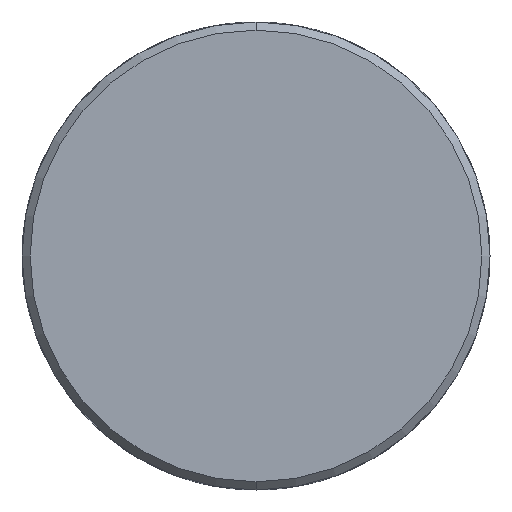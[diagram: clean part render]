
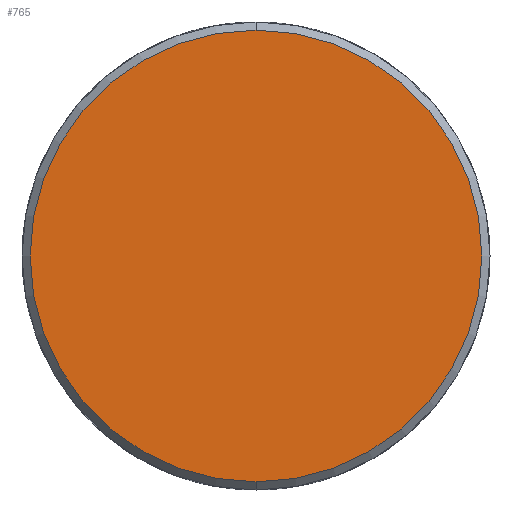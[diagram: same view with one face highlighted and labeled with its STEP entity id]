
A CAD part, front view. The second image highlights one B-rep face of the part: STEP entity #765.
In plain terms, the highlighted planar face has unit normal (0, -1, 0).
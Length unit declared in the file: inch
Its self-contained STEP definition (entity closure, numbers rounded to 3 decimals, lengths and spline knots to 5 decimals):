
#220 = VERTEX_POINT ( 'NONE', #1414 ) ;
#228 = EDGE_CURVE ( 'NONE', #570, #220, #1401, .T. ) ;
#570 = VERTEX_POINT ( 'NONE', #1964 ) ;
#765 = ADVANCED_FACE ( 'NONE', ( #2541 ), #2543, .F. ) ;
#766 = EDGE_LOOP ( 'NONE', ( #767, #769 ) ) ;
#767 = ORIENTED_EDGE ( 'NONE', *, *, #768, .T. ) ;
#768 = EDGE_CURVE ( 'NONE', #220, #570, #2531, .T. ) ;
#769 = ORIENTED_EDGE ( 'NONE', *, *, #228, .T. ) ;
#1394 = DIRECTION ( 'NONE',  ( 0., 0., 1. ) ) ;
#1395 = DIRECTION ( 'NONE',  ( 0., -1., 0. ) ) ;
#1396 = CARTESIAN_POINT ( 'NONE',  ( 0., 0., 0. ) ) ;
#1397 = AXIS2_PLACEMENT_3D ( 'NONE', #1396, #1395, #1394 ) ;
#1401 = CIRCLE ( 'NONE', #1397, 1.665 ) ;
#1414 = CARTESIAN_POINT ( 'NONE',  ( 0., 0., 1.665 ) ) ;
#1964 = CARTESIAN_POINT ( 'NONE',  ( 0., 0., -1.665 ) ) ;
#2531 = CIRCLE ( 'NONE', #2583, 1.665 ) ;
#2532 = DIRECTION ( 'NONE',  ( 0., 0., 1. ) ) ;
#2533 = DIRECTION ( 'NONE',  ( 0., 1., 0. ) ) ;
#2534 = CARTESIAN_POINT ( 'NONE',  ( 0., 0., 0. ) ) ;
#2535 = AXIS2_PLACEMENT_3D ( 'NONE', #2534, #2533, #2532 ) ;
#2541 = FACE_OUTER_BOUND ( 'NONE', #766, .T. ) ;
#2543 = PLANE ( 'NONE',  #2535 ) ;
#2580 = DIRECTION ( 'NONE',  ( 0., 0., 1. ) ) ;
#2581 = DIRECTION ( 'NONE',  ( 0., -1., 0. ) ) ;
#2582 = CARTESIAN_POINT ( 'NONE',  ( 0., 0., 0. ) ) ;
#2583 = AXIS2_PLACEMENT_3D ( 'NONE', #2582, #2581, #2580 ) ;
